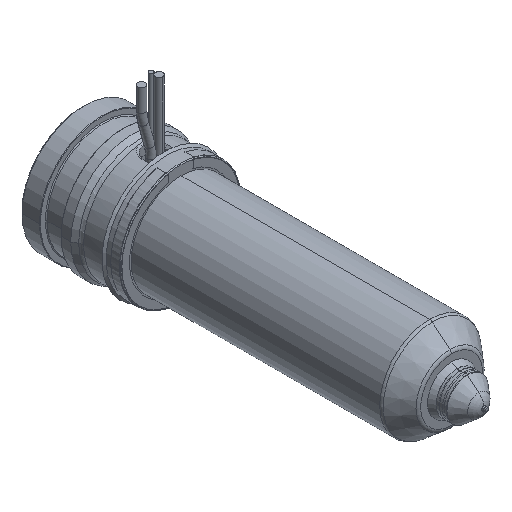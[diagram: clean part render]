
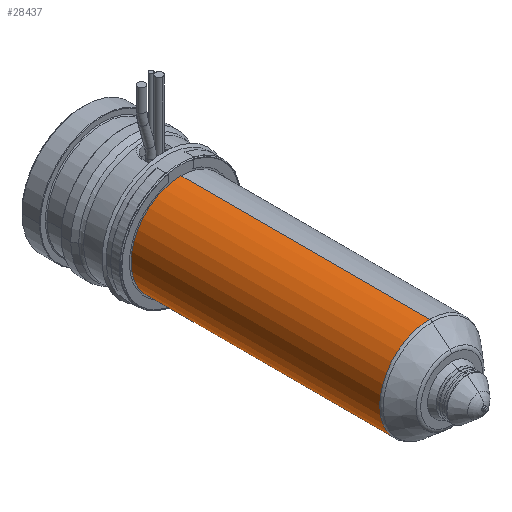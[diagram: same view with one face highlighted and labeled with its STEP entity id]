
A CAD part, isometric view. The second image highlights one B-rep face of the part: STEP entity #28437.
In plain terms, the highlighted cylindrical face has radius 12 mm (diameter 24 mm), a partial arc.
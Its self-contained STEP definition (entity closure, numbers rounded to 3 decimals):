
#27824=CARTESIAN_POINT('',(0.,-83.736,0.));
#27825=DIRECTION('',(0.,-1.,0.));
#27826=DIRECTION('',(0.,0.,1.));
#27827=AXIS2_PLACEMENT_3D('',#27824,#27825,#27826);
#27832=CARTESIAN_POINT('',(0.,-24.,0.));
#27833=DIRECTION('',(0.,1.,0.));
#27834=DIRECTION('',(0.,0.,-1.));
#27835=AXIS2_PLACEMENT_3D('',#27832,#27833,#27834);
#27840=DIRECTION('',(0.,1.,0.));
#27841=VECTOR('',#27840,59.736);
#27842=CARTESIAN_POINT('',(0.,-83.736,12.));
#27843=LINE('',#27842,#27841);
#27855=DIRECTION('',(0.,1.,0.));
#27856=VECTOR('',#27855,59.736);
#27857=CARTESIAN_POINT('',(0.,-83.736,-12.));
#27858=LINE('',#27857,#27856);
#28042=CARTESIAN_POINT('',(0.,-83.736,12.));
#28043=CARTESIAN_POINT('',(0.,-24.,12.));
#28044=VERTEX_POINT('',#28042);
#28045=VERTEX_POINT('',#28043);
#28046=CARTESIAN_POINT('',(0.,-83.736,-12.));
#28047=CARTESIAN_POINT('',(0.,-24.,-12.));
#28048=VERTEX_POINT('',#28046);
#28049=VERTEX_POINT('',#28047);
#28423=CARTESIAN_POINT('',(0.,-16.125,0.));
#28424=DIRECTION('',(0.,-1.,0.));
#28425=DIRECTION('',(0.,0.,1.));
#28426=AXIS2_PLACEMENT_3D('',#28423,#28424,#28425);
#28427=CYLINDRICAL_SURFACE('',#28426,12.);
#28429=ORIENTED_EDGE('',*,*,#28428,.F.);
#28430=ORIENTED_EDGE('',*,*,#28418,.T.);
#28432=ORIENTED_EDGE('',*,*,#28431,.T.);
#28434=ORIENTED_EDGE('',*,*,#28433,.T.);
#28435=EDGE_LOOP('',(#28429,#28430,#28432,#28434));
#28436=FACE_OUTER_BOUND('',#28435,.F.);
#28437=ADVANCED_FACE('',(#28436),#28427,.T.);
#27828=CIRCLE('',#27827,12.);
#27836=CIRCLE('',#27835,12.);
#28418=EDGE_CURVE('',#28044,#28048,#27828,.T.);
#28428=EDGE_CURVE('',#28044,#28045,#27843,.T.);
#28431=EDGE_CURVE('',#28048,#28049,#27858,.T.);
#28433=EDGE_CURVE('',#28049,#28045,#27836,.T.);
